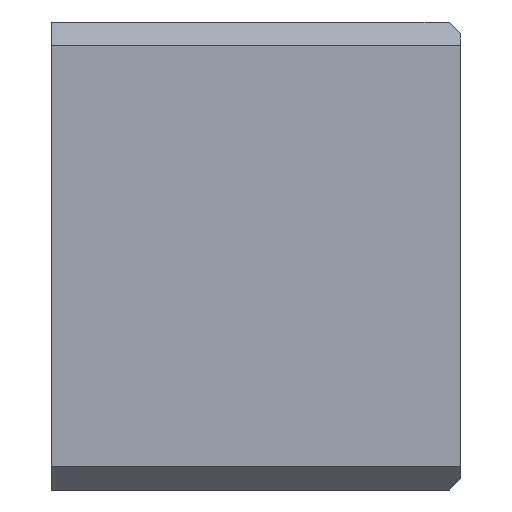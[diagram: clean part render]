
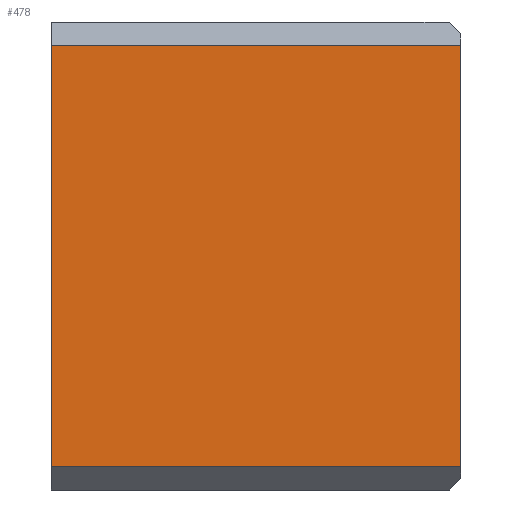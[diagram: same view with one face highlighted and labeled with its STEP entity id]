
A CAD part, front view. The second image highlights one B-rep face of the part: STEP entity #478.
In plain terms, the highlighted planar face has unit normal (0, -1, 0).
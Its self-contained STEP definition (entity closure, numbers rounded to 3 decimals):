
#5 = LINE ( 'NONE', #465, #185 ) ;
#49 = VERTEX_POINT ( 'NONE', #328 ) ;
#86 = VERTEX_POINT ( 'NONE', #228 ) ;
#101 = DIRECTION ( 'NONE',  ( 0., 0., -1. ) ) ;
#106 = ORIENTED_EDGE ( 'NONE', *, *, #753, .T. ) ;
#109 = DIRECTION ( 'NONE',  ( 1., 0., 0. ) ) ;
#185 = VECTOR ( 'NONE', #392, 1000. ) ;
#228 = CARTESIAN_POINT ( 'NONE',  ( 35., 0., -18. ) ) ;
#259 = CARTESIAN_POINT ( 'NONE',  ( 35., 0., 20. ) ) ;
#261 = CARTESIAN_POINT ( 'NONE',  ( 0., 0., 18. ) ) ;
#282 = ORIENTED_EDGE ( 'NONE', *, *, #335, .T. ) ;
#307 = CARTESIAN_POINT ( 'NONE',  ( 0., 0., -18. ) ) ;
#320 = VERTEX_POINT ( 'NONE', #640 ) ;
#328 = CARTESIAN_POINT ( 'NONE',  ( 0., 0., -18. ) ) ;
#335 = EDGE_CURVE ( 'NONE', #320, #373, #5, .T. ) ;
#367 = LINE ( 'NONE', #259, #741 ) ;
#373 = VERTEX_POINT ( 'NONE', #261 ) ;
#380 = DIRECTION ( 'NONE',  ( 0., 0., -1. ) ) ;
#392 = DIRECTION ( 'NONE',  ( -1., 0., 0. ) ) ;
#405 = EDGE_CURVE ( 'NONE', #320, #86, #367, .T. ) ;
#409 = VECTOR ( 'NONE', #109, 1000. ) ;
#417 = VECTOR ( 'NONE', #380, 1000. ) ;
#427 = LINE ( 'NONE', #307, #409 ) ;
#445 = LINE ( 'NONE', #830, #417 ) ;
#446 = ORIENTED_EDGE ( 'NONE', *, *, #739, .T. ) ;
#465 = CARTESIAN_POINT ( 'NONE',  ( 0., 0., 18. ) ) ;
#474 = PLANE ( 'NONE',  #591 ) ;
#478 = ADVANCED_FACE ( 'NONE', ( #618 ), #474, .F. ) ;
#481 = DIRECTION ( 'NONE',  ( 0., 1., 0. ) ) ;
#530 = ORIENTED_EDGE ( 'NONE', *, *, #405, .F. ) ;
#555 = DIRECTION ( 'NONE',  ( 0., 0., 1. ) ) ;
#591 = AXIS2_PLACEMENT_3D ( 'NONE', #706, #481, #555 ) ;
#618 = FACE_OUTER_BOUND ( 'NONE', #848, .T. ) ;
#640 = CARTESIAN_POINT ( 'NONE',  ( 35., 0., 18. ) ) ;
#706 = CARTESIAN_POINT ( 'NONE',  ( 0., 0., 20. ) ) ;
#739 = EDGE_CURVE ( 'NONE', #373, #49, #445, .T. ) ;
#741 = VECTOR ( 'NONE', #101, 1000. ) ;
#753 = EDGE_CURVE ( 'NONE', #49, #86, #427, .T. ) ;
#830 = CARTESIAN_POINT ( 'NONE',  ( 0., 0., 20. ) ) ;
#848 = EDGE_LOOP ( 'NONE', ( #530, #282, #446, #106 ) ) ;
